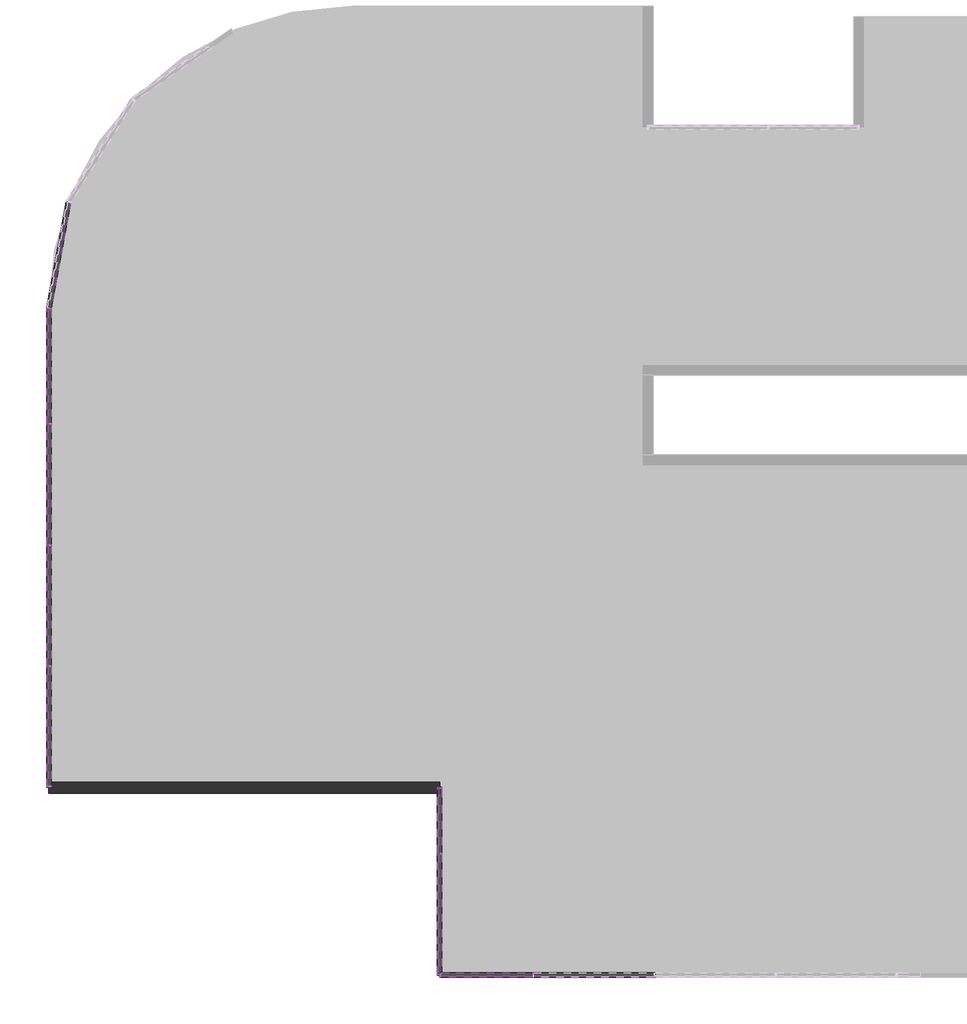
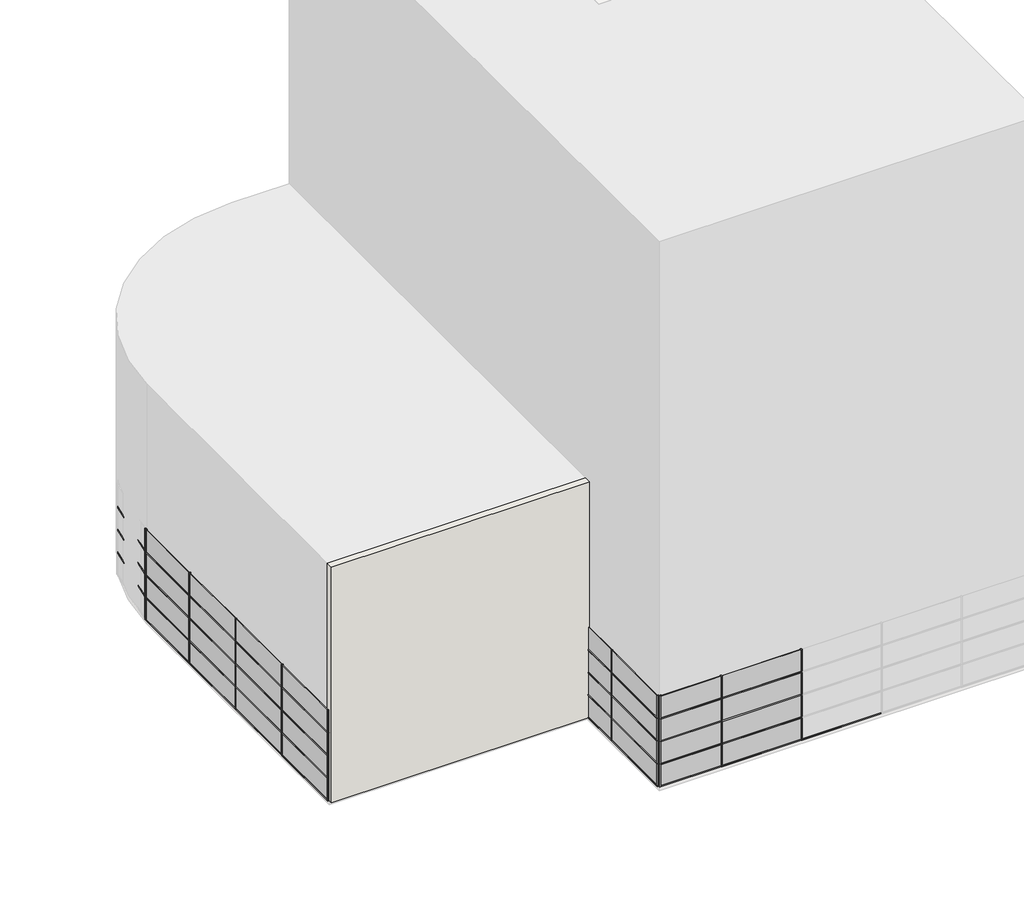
# One storey, part 1 of 5: 83 members, 32 plates, 1 wall.
"""IFC4 building model written with IfcOpenShell, lengths in millimetres."""

from ifc_helpers import new_model, si_unit, origin, origin_with_axes, place, context, project, spatial, polyline, outline, extrude, transform, mapped, element, save
from components import rectangular_mullion_50_x_150mm_d99dc9be, rectangular_mullion_50_x_150mm_182bfbd5, rectangular_mullion_50_x_150mm_402ab136, rectangular_mullion_50_x_150mm_6588f46c, rectangular_mullion_50_x_150mm_a037c29c, rectangular_mullion_50_x_150mm_c2546fd4, rectangular_mullion_50_x_150mm_cd873b1a, rectangular_mullion_50_x_150mm_60738c79, rectangular_mullion_50_x_150mm_bee9d6e8, rectangular_mullion_50_x_150mm_642c3999, rectangular_mullion_50_x_150mm_d9fe8572, rectangular_mullion_50_x_150mm_f56f8a9a, rectangular_mullion_50_x_150mm_a5a25251, system_panel_glazed_ecbc047f, system_panel_glazed_0d1816dc, system_panel_glazed_8e9402eb, system_panel_glazed_89ac83a7, system_panel_glazed_34a378e1, system_panel_glazed_2dc425e2, system_panel_glazed_a7875b16, system_panel_glazed_da5fadb4, system_panel_glazed_e0ec5d24, system_panel_glazed_3a708ec0

model = new_model("IFC4")

# Units and contexts
model_context = context("Model", 3, world=origin())
ifc_project = project(units=[si_unit("LENGTHUNIT", "METRE", prefix="MILLI")], contexts=[model_context])

# Site, building, storey
site = spatial("IfcSite", under=ifc_project)
building = spatial("IfcBuilding", under=site)
storey = spatial("IfcBuildingStorey", under=building, Name="Suteren", Elevation=0.0)

# Members
placement = place(None, origin())
rectangular_mullion_50_x_150mm_shape = rectangular_mullion_50_x_150mm_d99dc9be(model_context)
element("IfcMember", 1, ObjectType="Rectangular Mullion : 50 x 150mm", at=placement, inside=storey, context=model_context, shape_type="MappedRepresentation", body=[
    mapped(rectangular_mullion_50_x_150mm_shape, transform((1503.2660975, -23624.0160434, 2400.0), x_axis=(-1.0, 0.0, 0.0), y_axis=(0.0, -1.0, 0.0), z_axis=(0.0, 0.0, 1.0))),
])
element("IfcMember", 2, ObjectType="Rectangular Mullion : 50 x 150mm", at=placement, inside=storey, context=model_context, shape_type="MappedRepresentation", body=[
    mapped(rectangular_mullion_50_x_150mm_shape, transform((1503.2660975, -23624.0160434, 3600.0), x_axis=(-1.0, 0.0, 0.0), y_axis=(0.0, -1.0, 0.0), z_axis=(0.0, 0.0, 1.0))),
])
element("IfcMember", 3, ObjectType="Rectangular Mullion : 50 x 150mm", at=placement, inside=storey, context=model_context, shape_type="MappedRepresentation", body=[
    mapped(rectangular_mullion_50_x_150mm_shape, transform((1503.2660975, -23624.0160434, 4800.0), x_axis=(-1.0, 0.0, 0.0), y_axis=(0.0, -1.0, 0.0), z_axis=(0.0, 0.0, 1.0))),
])
element("IfcMember", 4, ObjectType="Rectangular Mullion : 50 x 150mm", at=placement, inside=storey, context=model_context, shape_type="MappedRepresentation", body=[
    mapped(rectangular_mullion_50_x_150mm_shape, transform((-2496.7339025, -23624.0160434, 2400.0), x_axis=(-1.0, 0.0, 0.0), y_axis=(0.0, -1.0, 0.0), z_axis=(0.0, 0.0, 1.0))),
])
element("IfcMember", 5, ObjectType="Rectangular Mullion : 50 x 150mm", at=placement, inside=storey, context=model_context, shape_type="MappedRepresentation", body=[
    mapped(rectangular_mullion_50_x_150mm_shape, transform((-2496.7339025, -23624.0160434, 3600.0), x_axis=(-1.0, 0.0, 0.0), y_axis=(0.0, -1.0, 0.0), z_axis=(0.0, 0.0, 1.0))),
])
element("IfcMember", 6, ObjectType="Rectangular Mullion : 50 x 150mm", at=placement, inside=storey, context=model_context, shape_type="MappedRepresentation", body=[
    mapped(rectangular_mullion_50_x_150mm_shape, transform((-2496.7339025, -23624.0160434, 4800.0), x_axis=(-1.0, 0.0, 0.0), y_axis=(0.0, -1.0, 0.0), z_axis=(0.0, 0.0, 1.0))),
])
element("IfcMember", 7, ObjectType="Rectangular Mullion : 50 x 150mm", at=placement, inside=storey, context=model_context, shape_type="MappedRepresentation", body=[
    mapped(rectangular_mullion_50_x_150mm_shape, transform((-5587.173406, -19624.0160434, 2400.0), x_axis=(0.0, 1.0, 0.0), y_axis=(-1.0, 0.0, 0.0), z_axis=(0.0, 0.0, 1.0))),
])
element("IfcMember", 8, ObjectType="Rectangular Mullion : 50 x 150mm", at=placement, inside=storey, context=model_context, shape_type="MappedRepresentation", body=[
    mapped(rectangular_mullion_50_x_150mm_shape, transform((-5587.173406, -19624.0160434, 3600.0), x_axis=(0.0, 1.0, 0.0), y_axis=(-1.0, 0.0, 0.0), z_axis=(0.0, 0.0, 1.0))),
])
element("IfcMember", 9, ObjectType="Rectangular Mullion : 50 x 150mm", at=placement, inside=storey, context=model_context, shape_type="MappedRepresentation", body=[
    mapped(rectangular_mullion_50_x_150mm_shape, transform((-5587.173406, -19624.0160434, 4800.0), x_axis=(0.0, 1.0, 0.0), y_axis=(-1.0, 0.0, 0.0), z_axis=(0.0, 0.0, 1.0))),
])
element("IfcMember", 10, ObjectType="Rectangular Mullion : 50 x 150mm", at=placement, inside=storey, context=model_context, shape_type="MappedRepresentation", body=[
    mapped(rectangular_mullion_50_x_150mm_shape, transform((-18496.7339025, -13423.5291324, 2400.0), x_axis=(0.0, 1.0, 0.0), y_axis=(-1.0, 0.0, 0.0), z_axis=(0.0, 0.0, 1.0))),
])
element("IfcMember", 11, ObjectType="Rectangular Mullion : 50 x 150mm", at=placement, inside=storey, context=model_context, shape_type="MappedRepresentation", body=[
    mapped(rectangular_mullion_50_x_150mm_shape, transform((-18496.7339025, -13423.5291324, 3600.0), x_axis=(0.0, 1.0, 0.0), y_axis=(-1.0, 0.0, 0.0), z_axis=(0.0, 0.0, 1.0))),
])
element("IfcMember", 12, ObjectType="Rectangular Mullion : 50 x 150mm", at=placement, inside=storey, context=model_context, shape_type="MappedRepresentation", body=[
    mapped(rectangular_mullion_50_x_150mm_shape, transform((-18496.7339025, -13423.5291324, 4800.0), x_axis=(0.0, 1.0, 0.0), y_axis=(-1.0, 0.0, 0.0), z_axis=(0.0, 0.0, 1.0))),
])
element("IfcMember", 13, ObjectType="Rectangular Mullion : 50 x 150mm", at=placement, inside=storey, context=model_context, shape_type="MappedRepresentation", body=[
    mapped(rectangular_mullion_50_x_150mm_shape, transform((-18496.7339025, -9423.5291324, 2400.0), x_axis=(0.0, 1.0, 0.0), y_axis=(-1.0, 0.0, 0.0), z_axis=(0.0, 0.0, 1.0))),
])
element("IfcMember", 14, ObjectType="Rectangular Mullion : 50 x 150mm", at=placement, inside=storey, context=model_context, shape_type="MappedRepresentation", body=[
    mapped(rectangular_mullion_50_x_150mm_shape, transform((-18496.7339025, -9423.5291324, 3600.0), x_axis=(0.0, 1.0, 0.0), y_axis=(-1.0, 0.0, 0.0), z_axis=(0.0, 0.0, 1.0))),
])
element("IfcMember", 15, ObjectType="Rectangular Mullion : 50 x 150mm", at=placement, inside=storey, context=model_context, shape_type="MappedRepresentation", body=[
    mapped(rectangular_mullion_50_x_150mm_shape, transform((-18496.7339025, -9423.5291324, 4800.0), x_axis=(0.0, 1.0, 0.0), y_axis=(-1.0, 0.0, 0.0), z_axis=(0.0, 0.0, 1.0))),
])
element("IfcMember", 16, ObjectType="Rectangular Mullion : 50 x 150mm", at=placement, inside=storey, context=model_context, shape_type="MappedRepresentation", body=[
    mapped(rectangular_mullion_50_x_150mm_shape, transform((-18496.7339025, -5423.5291324, 2400.0), x_axis=(0.0, 1.0, 0.0), y_axis=(-1.0, 0.0, 0.0), z_axis=(0.0, 0.0, 1.0))),
])
element("IfcMember", 17, ObjectType="Rectangular Mullion : 50 x 150mm", at=placement, inside=storey, context=model_context, shape_type="MappedRepresentation", body=[
    mapped(rectangular_mullion_50_x_150mm_shape, transform((-18496.7339025, -5423.5291324, 3600.0), x_axis=(0.0, 1.0, 0.0), y_axis=(-1.0, 0.0, 0.0), z_axis=(0.0, 0.0, 1.0))),
])
element("IfcMember", 18, ObjectType="Rectangular Mullion : 50 x 150mm", at=placement, inside=storey, context=model_context, shape_type="MappedRepresentation", body=[
    mapped(rectangular_mullion_50_x_150mm_shape, transform((-18496.7339025, -5423.5291324, 4800.0), x_axis=(0.0, 1.0, 0.0), y_axis=(-1.0, 0.0, 0.0), z_axis=(0.0, 0.0, 1.0))),
])
element("IfcMember", 19, ObjectType="Rectangular Mullion : 50 x 150mm", at=placement, inside=storey, context=model_context, shape_type="MappedRepresentation", body=[
    mapped(rectangular_mullion_50_x_150mm_shape, transform((1503.2660975, -23624.0160434, 1200.0), x_axis=(-1.0, 0.0, 0.0), y_axis=(0.0, -1.0, 0.0), z_axis=(0.0, 0.0, 1.0))),
])
element("IfcMember", 20, ObjectType="Rectangular Mullion : 50 x 150mm", at=placement, inside=storey, context=model_context, shape_type="MappedRepresentation", body=[
    mapped(rectangular_mullion_50_x_150mm_shape, transform((-2496.7339025, -23624.0160434, 1200.0), x_axis=(-1.0, 0.0, 0.0), y_axis=(0.0, -1.0, 0.0), z_axis=(0.0, 0.0, 1.0))),
])
element("IfcMember", 21, ObjectType="Rectangular Mullion : 50 x 150mm", at=placement, inside=storey, context=model_context, shape_type="MappedRepresentation", body=[
    mapped(rectangular_mullion_50_x_150mm_shape, transform((-5587.173406, -19624.0160434, 1200.0), x_axis=(0.0, 1.0, 0.0), y_axis=(-1.0, 0.0, 0.0), z_axis=(0.0, 0.0, 1.0))),
])
element("IfcMember", 22, ObjectType="Rectangular Mullion : 50 x 150mm", at=placement, inside=storey, context=model_context, shape_type="MappedRepresentation", body=[
    mapped(rectangular_mullion_50_x_150mm_shape, transform((-18496.7339025, -13423.5291324, 1200.0), x_axis=(0.0, 1.0, 0.0), y_axis=(-1.0, 0.0, 0.0), z_axis=(0.0, 0.0, 1.0))),
])
element("IfcMember", 23, ObjectType="Rectangular Mullion : 50 x 150mm", at=placement, inside=storey, context=model_context, shape_type="MappedRepresentation", body=[
    mapped(rectangular_mullion_50_x_150mm_shape, transform((-18496.7339025, -9423.5291324, 1200.0), x_axis=(0.0, 1.0, 0.0), y_axis=(-1.0, 0.0, 0.0), z_axis=(0.0, 0.0, 1.0))),
])
element("IfcMember", 24, ObjectType="Rectangular Mullion : 50 x 150mm", at=placement, inside=storey, context=model_context, shape_type="MappedRepresentation", body=[
    mapped(rectangular_mullion_50_x_150mm_shape, transform((-18496.7339025, -5423.5291324, 1200.0), x_axis=(0.0, 1.0, 0.0), y_axis=(-1.0, 0.0, 0.0), z_axis=(0.0, 0.0, 1.0))),
])
rectangular_mullion_50_x_150mm_2_shape = rectangular_mullion_50_x_150mm_182bfbd5(model_context)
element("IfcMember", 25, ObjectType="Rectangular Mullion : 50 x 150mm", at=placement, inside=storey, context=model_context, shape_type="MappedRepresentation", body=[
    mapped(rectangular_mullion_50_x_150mm_2_shape, transform((1528.2660975, -23624.0160434, 0.0), x_axis=(0.0, 0.0, -1.0), y_axis=(0.0, -1.0, 0.0), z_axis=(-1.0, 0.0, 0.0))),
])
element("IfcMember", 26, ObjectType="Rectangular Mullion : 50 x 150mm", at=placement, inside=storey, context=model_context, shape_type="MappedRepresentation", body=[
    mapped(rectangular_mullion_50_x_150mm_2_shape, transform((-2471.7339025, -23624.0160434, 0.0), x_axis=(0.0, 0.0, -1.0), y_axis=(0.0, -1.0, 0.0), z_axis=(-1.0, 0.0, 0.0))),
])
element("IfcMember", 27, ObjectType="Rectangular Mullion : 50 x 150mm", at=placement, inside=storey, context=model_context, shape_type="MappedRepresentation", body=[
    mapped(rectangular_mullion_50_x_150mm_2_shape, transform((-18496.7339025, -9448.5291324, 0.0), x_axis=(0.0, 0.0, -1.0), y_axis=(-1.0, 0.0, 0.0), z_axis=(0.0, 1.0, 0.0))),
])
element("IfcMember", 28, ObjectType="Rectangular Mullion : 50 x 150mm", at=placement, inside=storey, context=model_context, shape_type="MappedRepresentation", body=[
    mapped(rectangular_mullion_50_x_150mm_2_shape, transform((-18496.7339025, -5448.5291324, 0.0), x_axis=(0.0, 0.0, -1.0), y_axis=(-1.0, 0.0, 0.0), z_axis=(0.0, 1.0, 0.0))),
])
rectangular_mullion_50_x_150mm_3_shape = rectangular_mullion_50_x_150mm_402ab136(model_context)
element("IfcMember", 29, ObjectType="Rectangular Mullion : 50 x 150mm", at=placement, inside=storey, context=model_context, shape_type="MappedRepresentation", body=[
    mapped(rectangular_mullion_50_x_150mm_3_shape, transform((-5587.173406, -19649.0160434, 0.0), x_axis=(0.0, 0.0, -1.0), y_axis=(-1.0, 0.0, 0.0), z_axis=(0.0, 1.0, 0.0))),
])
element("IfcMember", 30, ObjectType="Rectangular Mullion : 50 x 150mm", at=placement, inside=storey, context=model_context, shape_type="MappedRepresentation", body=[
    mapped(rectangular_mullion_50_x_150mm_3_shape, transform((-18496.7339025, -13448.5291324, 0.0), x_axis=(0.0, 0.0, -1.0), y_axis=(-1.0, 0.0, 0.0), z_axis=(0.0, 1.0, 0.0))),
])
rectangular_mullion_50_x_150mm_4_shape = rectangular_mullion_50_x_150mm_6588f46c(model_context)
element("IfcMember", 31, ObjectType="Rectangular Mullion : 50 x 150mm", at=placement, inside=storey, context=model_context, shape_type="MappedRepresentation", body=[
    mapped(rectangular_mullion_50_x_150mm_4_shape, transform((-5587.173406, -23624.0160434, 4800.0), x_axis=(-1.0, 0.0, 0.0), y_axis=(0.0, -1.0, 0.0), z_axis=(0.0, 0.0, 1.0))),
])
element("IfcMember", 32, ObjectType="Rectangular Mullion : 50 x 150mm", at=placement, inside=storey, context=model_context, shape_type="MappedRepresentation", body=[
    mapped(rectangular_mullion_50_x_150mm_4_shape, transform((-5587.173406, -23624.0160434, 2400.0), x_axis=(-1.0, 0.0, 0.0), y_axis=(0.0, -1.0, 0.0), z_axis=(0.0, 0.0, 1.0))),
])
element("IfcMember", 33, ObjectType="Rectangular Mullion : 50 x 150mm", at=placement, inside=storey, context=model_context, shape_type="MappedRepresentation", body=[
    mapped(rectangular_mullion_50_x_150mm_4_shape, transform((-5587.173406, -23624.0160434, 3600.0), x_axis=(-1.0, 0.0, 0.0), y_axis=(0.0, -1.0, 0.0), z_axis=(0.0, 0.0, 1.0))),
])
element("IfcMember", 34, ObjectType="Rectangular Mullion : 50 x 150mm", at=placement, inside=storey, context=model_context, shape_type="MappedRepresentation", body=[
    mapped(rectangular_mullion_50_x_150mm_4_shape, transform((-5587.173406, -17423.5291324, 2400.0), x_axis=(0.0, 1.0, 0.0), y_axis=(-1.0, 0.0, 0.0), z_axis=(0.0, 0.0, 1.0))),
])
element("IfcMember", 35, ObjectType="Rectangular Mullion : 50 x 150mm", at=placement, inside=storey, context=model_context, shape_type="MappedRepresentation", body=[
    mapped(rectangular_mullion_50_x_150mm_4_shape, transform((-5587.173406, -17423.5291324, 3600.0), x_axis=(0.0, 1.0, 0.0), y_axis=(-1.0, 0.0, 0.0), z_axis=(0.0, 0.0, 1.0))),
])
element("IfcMember", 36, ObjectType="Rectangular Mullion : 50 x 150mm", at=placement, inside=storey, context=model_context, shape_type="MappedRepresentation", body=[
    mapped(rectangular_mullion_50_x_150mm_4_shape, transform((-5587.173406, -17423.5291324, 4800.0), x_axis=(0.0, 1.0, 0.0), y_axis=(-1.0, 0.0, 0.0), z_axis=(0.0, 0.0, 1.0))),
])
element("IfcMember", 37, ObjectType="Rectangular Mullion : 50 x 150mm", at=placement, inside=storey, context=model_context, shape_type="MappedRepresentation", body=[
    mapped(rectangular_mullion_50_x_150mm_4_shape, transform((-18496.7339025, -1624.0160434, 2400.0), x_axis=(0.0, 1.0, 0.0), y_axis=(-1.0, 0.0, 0.0), z_axis=(0.0, 0.0, 1.0))),
])
element("IfcMember", 38, ObjectType="Rectangular Mullion : 50 x 150mm", at=placement, inside=storey, context=model_context, shape_type="MappedRepresentation", body=[
    mapped(rectangular_mullion_50_x_150mm_4_shape, transform((-18496.7339025, -1624.0160434, 3600.0), x_axis=(0.0, 1.0, 0.0), y_axis=(-1.0, 0.0, 0.0), z_axis=(0.0, 0.0, 1.0))),
])
element("IfcMember", 39, ObjectType="Rectangular Mullion : 50 x 150mm", at=placement, inside=storey, context=model_context, shape_type="MappedRepresentation", body=[
    mapped(rectangular_mullion_50_x_150mm_4_shape, transform((-18496.7339025, -1624.0160434, 4800.0), x_axis=(0.0, 1.0, 0.0), y_axis=(-1.0, 0.0, 0.0), z_axis=(0.0, 0.0, 1.0))),
])
element("IfcMember", 40, ObjectType="Rectangular Mullion : 50 x 150mm", at=placement, inside=storey, context=model_context, shape_type="MappedRepresentation", body=[
    mapped(rectangular_mullion_50_x_150mm_4_shape, transform((-5587.173406, -23624.0160434, 1200.0), x_axis=(-1.0, 0.0, 0.0), y_axis=(0.0, -1.0, 0.0), z_axis=(0.0, 0.0, 1.0))),
])
element("IfcMember", 41, ObjectType="Rectangular Mullion : 50 x 150mm", at=placement, inside=storey, context=model_context, shape_type="MappedRepresentation", body=[
    mapped(rectangular_mullion_50_x_150mm_4_shape, transform((-5587.173406, -17423.5291324, 1200.0), x_axis=(0.0, 1.0, 0.0), y_axis=(-1.0, 0.0, 0.0), z_axis=(0.0, 0.0, 1.0))),
])
element("IfcMember", 42, ObjectType="Rectangular Mullion : 50 x 150mm", at=placement, inside=storey, context=model_context, shape_type="MappedRepresentation", body=[
    mapped(rectangular_mullion_50_x_150mm_4_shape, transform((-18496.7339025, -1624.0160434, 1200.0), x_axis=(0.0, 1.0, 0.0), y_axis=(-1.0, 0.0, 0.0), z_axis=(0.0, 0.0, 1.0))),
])
rectangular_mullion_50_x_150mm_5_shape = rectangular_mullion_50_x_150mm_a037c29c(model_context)
element("IfcMember", 43, ObjectType="Rectangular Mullion : 50 x 150mm", at=placement, inside=storey, context=model_context, shape_type="MappedRepresentation", body=[
    mapped(rectangular_mullion_50_x_150mm_5_shape, transform((1478.2660975, -23624.0160434, 3600.0), x_axis=(0.0, 0.0, 1.0), y_axis=(0.0, -1.0, 0.0), z_axis=(1.0, 0.0, 0.0))),
])
element("IfcMember", 44, ObjectType="Rectangular Mullion : 50 x 150mm", at=placement, inside=storey, context=model_context, shape_type="MappedRepresentation", body=[
    mapped(rectangular_mullion_50_x_150mm_5_shape, transform((1478.2660975, -23624.0160434, 1200.0), x_axis=(0.0, 0.0, 1.0), y_axis=(0.0, -1.0, 0.0), z_axis=(1.0, 0.0, 0.0))),
])
element("IfcMember", 45, ObjectType="Rectangular Mullion : 50 x 150mm", at=placement, inside=storey, context=model_context, shape_type="MappedRepresentation", body=[
    mapped(rectangular_mullion_50_x_150mm_5_shape, transform((-18496.7339025, -13398.5291324, 2400.0), x_axis=(0.0, 0.0, 1.0), y_axis=(-1.0, 0.0, 0.0), z_axis=(0.0, -1.0, 0.0))),
])
element("IfcMember", 46, ObjectType="Rectangular Mullion : 50 x 150mm", at=placement, inside=storey, context=model_context, shape_type="MappedRepresentation", body=[
    mapped(rectangular_mullion_50_x_150mm_5_shape, transform((-18496.7339025, -9398.5291324, 2400.0), x_axis=(0.0, 0.0, 1.0), y_axis=(-1.0, 0.0, 0.0), z_axis=(0.0, -1.0, 0.0))),
])
element("IfcMember", 47, ObjectType="Rectangular Mullion : 50 x 150mm", at=placement, inside=storey, context=model_context, shape_type="MappedRepresentation", body=[
    mapped(rectangular_mullion_50_x_150mm_5_shape, transform((-18496.7339025, -13398.5291324, 3600.0), x_axis=(0.0, 0.0, 1.0), y_axis=(-1.0, 0.0, 0.0), z_axis=(0.0, -1.0, 0.0))),
])
element("IfcMember", 48, ObjectType="Rectangular Mullion : 50 x 150mm", at=placement, inside=storey, context=model_context, shape_type="MappedRepresentation", body=[
    mapped(rectangular_mullion_50_x_150mm_5_shape, transform((-18496.7339025, -9398.5291324, 3600.0), x_axis=(0.0, 0.0, 1.0), y_axis=(-1.0, 0.0, 0.0), z_axis=(0.0, -1.0, 0.0))),
])
element("IfcMember", 49, ObjectType="Rectangular Mullion : 50 x 150mm", at=placement, inside=storey, context=model_context, shape_type="MappedRepresentation", body=[
    mapped(rectangular_mullion_50_x_150mm_5_shape, transform((-18496.7339025, -13398.5291324, 1200.0), x_axis=(0.0, 0.0, 1.0), y_axis=(-1.0, 0.0, 0.0), z_axis=(0.0, -1.0, 0.0))),
])
element("IfcMember", 50, ObjectType="Rectangular Mullion : 50 x 150mm", at=placement, inside=storey, context=model_context, shape_type="MappedRepresentation", body=[
    mapped(rectangular_mullion_50_x_150mm_5_shape, transform((-18496.7339025, -9398.5291324, 1200.0), x_axis=(0.0, 0.0, 1.0), y_axis=(-1.0, 0.0, 0.0), z_axis=(0.0, -1.0, 0.0))),
])
rectangular_mullion_50_x_150mm_6_shape = rectangular_mullion_50_x_150mm_c2546fd4(model_context)
element("IfcMember", 51, ObjectType="Rectangular Mullion : 50 x 150mm", at=placement, inside=storey, context=model_context, shape_type="MappedRepresentation", body=[
    mapped(rectangular_mullion_50_x_150mm_6_shape, transform((-5587.173406, -23574.0160434, 1200.0), x_axis=(0.0, 0.0, 1.0), y_axis=(-1.0, 0.0, 0.0), z_axis=(0.0, -1.0, 0.0))),
])
element("IfcMember", 52, ObjectType="Rectangular Mullion : 50 x 150mm", at=placement, inside=storey, context=model_context, shape_type="MappedRepresentation", body=[
    mapped(rectangular_mullion_50_x_150mm_6_shape, transform((-5587.173406, -23574.0160434, 2400.0), x_axis=(0.0, 0.0, 1.0), y_axis=(-1.0, 0.0, 0.0), z_axis=(0.0, -1.0, 0.0))),
])
element("IfcMember", 53, ObjectType="Rectangular Mullion : 50 x 150mm", at=placement, inside=storey, context=model_context, shape_type="MappedRepresentation", body=[
    mapped(rectangular_mullion_50_x_150mm_6_shape, transform((-5587.173406, -23574.0160434, 3600.0), x_axis=(0.0, 0.0, 1.0), y_axis=(-1.0, 0.0, 0.0), z_axis=(0.0, -1.0, 0.0))),
])
element("IfcMember", 54, ObjectType="Rectangular Mullion : 50 x 150mm", at=placement, inside=storey, context=model_context, shape_type="MappedRepresentation", body=[
    mapped(rectangular_mullion_50_x_150mm_6_shape, transform((-18496.7339025, -17373.5291324, 2400.0), x_axis=(0.0, 0.0, 1.0), y_axis=(-1.0, 0.0, 0.0), z_axis=(0.0, -1.0, 0.0))),
])
element("IfcMember", 55, ObjectType="Rectangular Mullion : 50 x 150mm", at=placement, inside=storey, context=model_context, shape_type="MappedRepresentation", body=[
    mapped(rectangular_mullion_50_x_150mm_6_shape, transform((-18496.7339025, -17373.5291324, 3600.0), x_axis=(0.0, 0.0, 1.0), y_axis=(-1.0, 0.0, 0.0), z_axis=(0.0, -1.0, 0.0))),
])
element("IfcMember", 56, ObjectType="Rectangular Mullion : 50 x 150mm", at=placement, inside=storey, context=model_context, shape_type="MappedRepresentation", body=[
    mapped(rectangular_mullion_50_x_150mm_6_shape, transform((-18496.7339025, -17373.5291324, 1200.0), x_axis=(0.0, 0.0, 1.0), y_axis=(-1.0, 0.0, 0.0), z_axis=(0.0, -1.0, 0.0))),
])
element("IfcMember", 57, ObjectType="Rectangular Mullion : 50 x 150mm", at=placement, inside=storey, context=model_context, shape_type="MappedRepresentation", body=[
    mapped(rectangular_mullion_50_x_150mm_4_shape, transform((-5587.173406, -23624.0160434, 1200.0), x_axis=(0.0, -1.0, 0.0), y_axis=(-1.0, 0.0, 0.0), z_axis=(0.0, 0.0, -1.0))),
])
element("IfcMember", 58, ObjectType="Rectangular Mullion : 50 x 150mm", at=placement, inside=storey, context=model_context, shape_type="MappedRepresentation", body=[
    mapped(rectangular_mullion_50_x_150mm_4_shape, transform((-5587.173406, -23624.0160434, 2400.0), x_axis=(0.0, -1.0, 0.0), y_axis=(-1.0, 0.0, 0.0), z_axis=(0.0, 0.0, -1.0))),
])
element("IfcMember", 59, ObjectType="Rectangular Mullion : 50 x 150mm", at=placement, inside=storey, context=model_context, shape_type="MappedRepresentation", body=[
    mapped(rectangular_mullion_50_x_150mm_4_shape, transform((-5587.173406, -23624.0160434, 3600.0), x_axis=(0.0, -1.0, 0.0), y_axis=(-1.0, 0.0, 0.0), z_axis=(0.0, 0.0, -1.0))),
])
element("IfcMember", 60, ObjectType="Rectangular Mullion : 50 x 150mm", at=placement, inside=storey, context=model_context, shape_type="MappedRepresentation", body=[
    mapped(rectangular_mullion_50_x_150mm_4_shape, transform((-18496.7339025, -1624.0160434, 1200.0), x_axis=(-0.18033241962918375, -0.9836057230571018, 0.0), y_axis=(-0.9836057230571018, 0.18033241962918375, 0.0), z_axis=(0.0, 0.0, -1.0))),
])
element("IfcMember", 61, ObjectType="Rectangular Mullion : 50 x 150mm", at=placement, inside=storey, context=model_context, shape_type="MappedRepresentation", body=[
    mapped(rectangular_mullion_50_x_150mm_4_shape, transform((-18496.7339025, -1624.0160434, 2400.0), x_axis=(-0.18033241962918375, -0.9836057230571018, 0.0), y_axis=(-0.9836057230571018, 0.18033241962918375, 0.0), z_axis=(0.0, 0.0, -1.0))),
])
element("IfcMember", 62, ObjectType="Rectangular Mullion : 50 x 150mm", at=placement, inside=storey, context=model_context, shape_type="MappedRepresentation", body=[
    mapped(rectangular_mullion_50_x_150mm_4_shape, transform((-18496.7339025, -1624.0160434, 3600.0), x_axis=(-0.18033241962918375, -0.9836057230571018, 0.0), y_axis=(-0.9836057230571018, 0.18033241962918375, 0.0), z_axis=(0.0, 0.0, -1.0))),
])
element("IfcMember", 63, ObjectType="Rectangular Mullion : 50 x 150mm", at=placement, inside=storey, context=model_context, shape_type="MappedRepresentation", body=[
    mapped(rectangular_mullion_50_x_150mm_4_shape, transform((-18496.7339025, -17423.5291324, 2400.0), x_axis=(0.0, -1.0, 0.0), y_axis=(-1.0, 0.0, 0.0), z_axis=(0.0, 0.0, -1.0))),
])
element("IfcMember", 64, ObjectType="Rectangular Mullion : 50 x 150mm", at=placement, inside=storey, context=model_context, shape_type="MappedRepresentation", body=[
    mapped(rectangular_mullion_50_x_150mm_4_shape, transform((-18496.7339025, -17423.5291324, 3600.0), x_axis=(0.0, -1.0, 0.0), y_axis=(-1.0, 0.0, 0.0), z_axis=(0.0, 0.0, -1.0))),
])
element("IfcMember", 65, ObjectType="Rectangular Mullion : 50 x 150mm", at=placement, inside=storey, context=model_context, shape_type="MappedRepresentation", body=[
    mapped(rectangular_mullion_50_x_150mm_4_shape, transform((-18496.7339025, -17423.5291324, 1200.0), x_axis=(0.0, -1.0, 0.0), y_axis=(-1.0, 0.0, 0.0), z_axis=(0.0, 0.0, -1.0))),
])
element("IfcMember", 66, ObjectType="Rectangular Mullion : 50 x 150mm", at=placement, inside=storey, context=model_context, shape_type="MappedRepresentation", body=[
    mapped(rectangular_mullion_50_x_150mm_4_shape, transform((-5587.173406, -23624.0160434, 0.0), x_axis=(0.0, -1.0, 0.0), y_axis=(-1.0, 0.0, 0.0), z_axis=(0.0, 0.0, -1.0))),
])
element("IfcMember", 67, ObjectType="Rectangular Mullion : 50 x 150mm", at=placement, inside=storey, context=model_context, shape_type="MappedRepresentation", body=[
    mapped(rectangular_mullion_50_x_150mm_4_shape, transform((-18496.7339025, -1624.0160434, 0.0), x_axis=(-0.18033241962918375, -0.9836057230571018, 0.0), y_axis=(-0.9836057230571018, 0.18033241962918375, 0.0), z_axis=(0.0, 0.0, -1.0))),
])
element("IfcMember", 68, ObjectType="Rectangular Mullion : 50 x 150mm", at=placement, inside=storey, context=model_context, shape_type="MappedRepresentation", body=[
    mapped(rectangular_mullion_50_x_150mm_4_shape, transform((-18496.7339025, -17423.5291324, 0.0), x_axis=(0.0, -1.0, 0.0), y_axis=(-1.0, 0.0, 0.0), z_axis=(0.0, 0.0, -1.0))),
])
rectangular_mullion_50_x_150mm_7_shape = rectangular_mullion_50_x_150mm_cd873b1a(model_context)
element("IfcMember", 69, ObjectType="Rectangular Mullion : 50 x 150mm", at=placement, inside=storey, context=model_context, shape_type="MappedRepresentation", body=[
    mapped(rectangular_mullion_50_x_150mm_7_shape, transform((-2521.7339025, -23624.0160434, 3600.0), x_axis=(0.0, 0.0, 1.0), y_axis=(0.0, -1.0, 0.0), z_axis=(1.0, 0.0, 0.0))),
])
element("IfcMember", 70, ObjectType="Rectangular Mullion : 50 x 150mm", at=placement, inside=storey, context=model_context, shape_type="MappedRepresentation", body=[
    mapped(rectangular_mullion_50_x_150mm_7_shape, transform((-2521.7339025, -23624.0160434, 1200.0), x_axis=(0.0, 0.0, 1.0), y_axis=(0.0, -1.0, 0.0), z_axis=(1.0, 0.0, 0.0))),
])
element("IfcMember", 71, ObjectType="Rectangular Mullion : 50 x 150mm", at=placement, inside=storey, context=model_context, shape_type="MappedRepresentation", body=[
    mapped(rectangular_mullion_50_x_150mm_7_shape, transform((-2521.7339025, -23624.0160434, 2400.0), x_axis=(0.0, 0.0, 1.0), y_axis=(0.0, -1.0, 0.0), z_axis=(1.0, 0.0, 0.0))),
])
rectangular_mullion_50_x_150mm_8_shape = rectangular_mullion_50_x_150mm_60738c79(model_context)
element("IfcMember", 72, ObjectType="Rectangular Mullion : 50 x 150mm", at=placement, inside=storey, context=model_context, shape_type="MappedRepresentation", body=[
    mapped(rectangular_mullion_50_x_150mm_8_shape, transform((-5537.173406, -23624.0160434, 0.0), x_axis=(0.0, 0.0, -1.0), y_axis=(0.0, -1.0, 0.0), z_axis=(-1.0, 0.0, 0.0))),
])
rectangular_mullion_50_x_150mm_9_shape = rectangular_mullion_50_x_150mm_bee9d6e8(model_context)
element("IfcMember", 73, ObjectType="Rectangular Mullion : 50 x 150mm", at=placement, inside=storey, context=model_context, shape_type="MappedRepresentation", body=[
    mapped(rectangular_mullion_50_x_150mm_9_shape, transform((-5587.173406, -17473.5291324, 0.0), x_axis=(0.0, 0.0, -1.0), y_axis=(-1.0, 0.0, 0.0), z_axis=(0.0, 1.0, 0.0))),
])
rectangular_mullion_50_x_150mm_10_shape = rectangular_mullion_50_x_150mm_642c3999(model_context)
element("IfcMember", 74, ObjectType="Rectangular Mullion : 50 x 150mm", at=placement, inside=storey, context=model_context, shape_type="MappedRepresentation", body=[
    mapped(rectangular_mullion_50_x_150mm_10_shape, transform((-5587.173406, -19599.0160434, 1200.0), x_axis=(0.0, 0.0, 1.0), y_axis=(-1.0, 0.0, 0.0), z_axis=(0.0, -1.0, 0.0))),
])
element("IfcMember", 75, ObjectType="Rectangular Mullion : 50 x 150mm", at=placement, inside=storey, context=model_context, shape_type="MappedRepresentation", body=[
    mapped(rectangular_mullion_50_x_150mm_10_shape, transform((-5587.173406, -19599.0160434, 2400.0), x_axis=(0.0, 0.0, 1.0), y_axis=(-1.0, 0.0, 0.0), z_axis=(0.0, -1.0, 0.0))),
])
element("IfcMember", 76, ObjectType="Rectangular Mullion : 50 x 150mm", at=placement, inside=storey, context=model_context, shape_type="MappedRepresentation", body=[
    mapped(rectangular_mullion_50_x_150mm_10_shape, transform((-5587.173406, -19599.0160434, 3600.0), x_axis=(0.0, 0.0, 1.0), y_axis=(-1.0, 0.0, 0.0), z_axis=(0.0, -1.0, 0.0))),
])
rectangular_mullion_50_x_150mm_11_shape = rectangular_mullion_50_x_150mm_d9fe8572(model_context)
element("IfcMember", 77, ObjectType="Rectangular Mullion : 50 x 150mm", at=placement, inside=storey, context=model_context, shape_type="MappedRepresentation", body=[
    mapped(rectangular_mullion_50_x_150mm_11_shape, transform((-18487.7172815, -1574.8357573, 1200.0), x_axis=(0.0, 0.0, 1.0), y_axis=(-0.9836057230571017, 0.1803324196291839, 0.0), z_axis=(-0.1803324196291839, -0.9836057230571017, 0.0))),
])
element("IfcMember", 78, ObjectType="Rectangular Mullion : 50 x 150mm", at=placement, inside=storey, context=model_context, shape_type="MappedRepresentation", body=[
    mapped(rectangular_mullion_50_x_150mm_11_shape, transform((-18487.7172815, -1574.8357573, 2400.0), x_axis=(0.0, 0.0, 1.0), y_axis=(-0.9836057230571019, 0.18033241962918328, 0.0), z_axis=(-0.18033241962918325, -0.9836057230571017, 0.0))),
])
element("IfcMember", 79, ObjectType="Rectangular Mullion : 50 x 150mm", at=placement, inside=storey, context=model_context, shape_type="MappedRepresentation", body=[
    mapped(rectangular_mullion_50_x_150mm_11_shape, transform((-18487.7172815, -1574.8357573, 3600.0), x_axis=(0.0, 0.0, 1.0), y_axis=(-0.9836057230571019, 0.18033241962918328, 0.0), z_axis=(-0.18033241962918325, -0.9836057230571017, 0.0))),
])
rectangular_mullion_50_x_150mm_12_shape = rectangular_mullion_50_x_150mm_f56f8a9a(model_context)
element("IfcMember", 80, ObjectType="Rectangular Mullion : 50 x 150mm", at=placement, inside=storey, context=model_context, shape_type="MappedRepresentation", body=[
    mapped(rectangular_mullion_50_x_150mm_12_shape, transform((-18496.7339025, -5398.5291324, 2400.0), x_axis=(0.0, 0.0, 1.0), y_axis=(-1.0, 0.0, 0.0), z_axis=(0.0, -1.0, 0.0))),
])
element("IfcMember", 81, ObjectType="Rectangular Mullion : 50 x 150mm", at=placement, inside=storey, context=model_context, shape_type="MappedRepresentation", body=[
    mapped(rectangular_mullion_50_x_150mm_12_shape, transform((-18496.7339025, -5398.5291324, 3600.0), x_axis=(0.0, 0.0, 1.0), y_axis=(-1.0, 0.0, 0.0), z_axis=(0.0, -1.0, 0.0))),
])
element("IfcMember", 82, ObjectType="Rectangular Mullion : 50 x 150mm", at=placement, inside=storey, context=model_context, shape_type="MappedRepresentation", body=[
    mapped(rectangular_mullion_50_x_150mm_12_shape, transform((-18496.7339025, -5398.5291324, 1200.0), x_axis=(0.0, 0.0, 1.0), y_axis=(-1.0, 0.0, 0.0), z_axis=(0.0, -1.0, 0.0))),
])
rectangular_mullion_50_x_150mm_13_shape = rectangular_mullion_50_x_150mm_a5a25251(model_context)
element("IfcMember", 83, ObjectType="Rectangular Mullion : 50 x 150mm", at=placement, inside=storey, context=model_context, shape_type="MappedRepresentation", body=[
    mapped(rectangular_mullion_50_x_150mm_13_shape, transform((-18496.7339025, -1674.0160434, 0.0), x_axis=(0.0, 0.0, -1.0), y_axis=(-1.0, 0.0, 0.0), z_axis=(0.0, 1.0, 0.0))),
])

# Plates
system_panel_glazed_shape = system_panel_glazed_ecbc047f(model_context)
element("IfcPlate", 84, ObjectType="System Panel : Glazed", at=placement, inside=storey, context=model_context, shape_type="MappedRepresentation", body=[
    mapped(system_panel_glazed_shape, transform((-5587.173406, -21611.5160434, 50.0), x_axis=(0.0, 1.0, 0.0), y_axis=(-1.0, 0.0, 0.0), z_axis=(0.0, 0.0, 1.0))),
])
element("IfcPlate", 85, ObjectType="System Panel : Glazed", at=placement, inside=storey, context=model_context, shape_type="MappedRepresentation", body=[
    mapped(system_panel_glazed_shape, transform((-18496.7339025, -15411.0291324, 50.0), x_axis=(0.0, 1.0, 0.0), y_axis=(-1.0, 0.0, 0.0), z_axis=(0.0, 0.0, 1.0))),
])
system_panel_glazed_2_shape = system_panel_glazed_0d1816dc(model_context)
element("IfcPlate", 86, ObjectType="System Panel : Glazed", at=placement, inside=storey, context=model_context, shape_type="MappedRepresentation", body=[
    mapped(system_panel_glazed_2_shape, transform((-496.7339025, -23624.0160434, 50.0), x_axis=(-1.0, 0.0, 0.0), y_axis=(0.0, -1.0, 0.0), z_axis=(0.0, 0.0, 1.0))),
])
element("IfcPlate", 87, ObjectType="System Panel : Glazed", at=placement, inside=storey, context=model_context, shape_type="MappedRepresentation", body=[
    mapped(system_panel_glazed_2_shape, transform((-18496.7339025, -11423.5291324, 50.0), x_axis=(0.0, 1.0, 0.0), y_axis=(-1.0, 0.0, 0.0), z_axis=(0.0, 0.0, 1.0))),
])
element("IfcPlate", 88, ObjectType="System Panel : Glazed", at=placement, inside=storey, context=model_context, shape_type="MappedRepresentation", body=[
    mapped(system_panel_glazed_2_shape, transform((-18496.7339025, -7423.5291324, 50.0), x_axis=(0.0, 1.0, 0.0), y_axis=(-1.0, 0.0, 0.0), z_axis=(0.0, 0.0, 1.0))),
])
system_panel_glazed_3_shape = system_panel_glazed_8e9402eb(model_context)
element("IfcPlate", 89, ObjectType="System Panel : Glazed", at=placement, inside=storey, context=model_context, shape_type="MappedRepresentation", body=[
    mapped(system_panel_glazed_3_shape, transform((-5587.173406, -21611.5160434, 1225.0), x_axis=(0.0, 1.0, 0.0), y_axis=(-1.0, 0.0, 0.0), z_axis=(0.0, 0.0, 1.0))),
])
element("IfcPlate", 90, ObjectType="System Panel : Glazed", at=placement, inside=storey, context=model_context, shape_type="MappedRepresentation", body=[
    mapped(system_panel_glazed_3_shape, transform((-5587.173406, -21611.5160434, 2425.0), x_axis=(0.0, 1.0, 0.0), y_axis=(-1.0, 0.0, 0.0), z_axis=(0.0, 0.0, 1.0))),
])
element("IfcPlate", 91, ObjectType="System Panel : Glazed", at=placement, inside=storey, context=model_context, shape_type="MappedRepresentation", body=[
    mapped(system_panel_glazed_3_shape, transform((-5587.173406, -21611.5160434, 3625.0), x_axis=(0.0, 1.0, 0.0), y_axis=(-1.0, 0.0, 0.0), z_axis=(0.0, 0.0, 1.0))),
])
element("IfcPlate", 92, ObjectType="System Panel : Glazed", at=placement, inside=storey, context=model_context, shape_type="MappedRepresentation", body=[
    mapped(system_panel_glazed_3_shape, transform((-18496.7339025, -15411.0291324, 1225.0), x_axis=(0.0, 1.0, 0.0), y_axis=(-1.0, 0.0, 0.0), z_axis=(0.0, 0.0, 1.0))),
])
element("IfcPlate", 93, ObjectType="System Panel : Glazed", at=placement, inside=storey, context=model_context, shape_type="MappedRepresentation", body=[
    mapped(system_panel_glazed_3_shape, transform((-18496.7339025, -15411.0291324, 2425.0), x_axis=(0.0, 1.0, 0.0), y_axis=(-1.0, 0.0, 0.0), z_axis=(0.0, 0.0, 1.0))),
])
element("IfcPlate", 94, ObjectType="System Panel : Glazed", at=placement, inside=storey, context=model_context, shape_type="MappedRepresentation", body=[
    mapped(system_panel_glazed_3_shape, transform((-18496.7339025, -15411.0291324, 3625.0), x_axis=(0.0, 1.0, 0.0), y_axis=(-1.0, 0.0, 0.0), z_axis=(0.0, 0.0, 1.0))),
])
system_panel_glazed_4_shape = system_panel_glazed_89ac83a7(model_context)
element("IfcPlate", 95, ObjectType="System Panel : Glazed", at=placement, inside=storey, context=model_context, shape_type="MappedRepresentation", body=[
    mapped(system_panel_glazed_4_shape, transform((-496.7339025, -23624.0160434, 1225.0), x_axis=(-1.0, 0.0, 0.0), y_axis=(0.0, -1.0, 0.0), z_axis=(0.0, 0.0, 1.0))),
])
element("IfcPlate", 96, ObjectType="System Panel : Glazed", at=placement, inside=storey, context=model_context, shape_type="MappedRepresentation", body=[
    mapped(system_panel_glazed_4_shape, transform((-496.7339025, -23624.0160434, 2425.0), x_axis=(-1.0, 0.0, 0.0), y_axis=(0.0, -1.0, 0.0), z_axis=(0.0, 0.0, 1.0))),
])
element("IfcPlate", 97, ObjectType="System Panel : Glazed", at=placement, inside=storey, context=model_context, shape_type="MappedRepresentation", body=[
    mapped(system_panel_glazed_4_shape, transform((-496.7339025, -23624.0160434, 3625.0), x_axis=(-1.0, 0.0, 0.0), y_axis=(0.0, -1.0, 0.0), z_axis=(0.0, 0.0, 1.0))),
])
element("IfcPlate", 98, ObjectType="System Panel : Glazed", at=placement, inside=storey, context=model_context, shape_type="MappedRepresentation", body=[
    mapped(system_panel_glazed_4_shape, transform((-18496.7339025, -11423.5291324, 1225.0), x_axis=(0.0, 1.0, 0.0), y_axis=(-1.0, 0.0, 0.0), z_axis=(0.0, 0.0, 1.0))),
])
element("IfcPlate", 99, ObjectType="System Panel : Glazed", at=placement, inside=storey, context=model_context, shape_type="MappedRepresentation", body=[
    mapped(system_panel_glazed_4_shape, transform((-18496.7339025, -7423.5291324, 1225.0), x_axis=(0.0, 1.0, 0.0), y_axis=(-1.0, 0.0, 0.0), z_axis=(0.0, 0.0, 1.0))),
])
element("IfcPlate", 100, ObjectType="System Panel : Glazed", at=placement, inside=storey, context=model_context, shape_type="MappedRepresentation", body=[
    mapped(system_panel_glazed_4_shape, transform((-18496.7339025, -11423.5291324, 2425.0), x_axis=(0.0, 1.0, 0.0), y_axis=(-1.0, 0.0, 0.0), z_axis=(0.0, 0.0, 1.0))),
])
element("IfcPlate", 101, ObjectType="System Panel : Glazed", at=placement, inside=storey, context=model_context, shape_type="MappedRepresentation", body=[
    mapped(system_panel_glazed_4_shape, transform((-18496.7339025, -7423.5291324, 2425.0), x_axis=(0.0, 1.0, 0.0), y_axis=(-1.0, 0.0, 0.0), z_axis=(0.0, 0.0, 1.0))),
])
element("IfcPlate", 102, ObjectType="System Panel : Glazed", at=placement, inside=storey, context=model_context, shape_type="MappedRepresentation", body=[
    mapped(system_panel_glazed_4_shape, transform((-18496.7339025, -11423.5291324, 3625.0), x_axis=(0.0, 1.0, 0.0), y_axis=(-1.0, 0.0, 0.0), z_axis=(0.0, 0.0, 1.0))),
])
element("IfcPlate", 103, ObjectType="System Panel : Glazed", at=placement, inside=storey, context=model_context, shape_type="MappedRepresentation", body=[
    mapped(system_panel_glazed_4_shape, transform((-18496.7339025, -7423.5291324, 3625.0), x_axis=(0.0, 1.0, 0.0), y_axis=(-1.0, 0.0, 0.0), z_axis=(0.0, 0.0, 1.0))),
])
system_panel_glazed_5_shape = system_panel_glazed_34a378e1(model_context)
element("IfcPlate", 104, ObjectType="System Panel : Glazed", at=placement, inside=storey, context=model_context, shape_type="MappedRepresentation", body=[
    mapped(system_panel_glazed_5_shape, transform((-4029.4536543, -23624.0160434, 50.0), x_axis=(-1.0, 0.0, 0.0), y_axis=(0.0, -1.0, 0.0), z_axis=(0.0, 0.0, 1.0))),
])
system_panel_glazed_6_shape = system_panel_glazed_2dc425e2(model_context)
element("IfcPlate", 105, ObjectType="System Panel : Glazed", at=placement, inside=storey, context=model_context, shape_type="MappedRepresentation", body=[
    mapped(system_panel_glazed_6_shape, transform((-4029.4536543, -23624.0160434, 1225.0), x_axis=(-1.0, 0.0, 0.0), y_axis=(0.0, -1.0, 0.0), z_axis=(0.0, 0.0, 1.0))),
])
element("IfcPlate", 106, ObjectType="System Panel : Glazed", at=placement, inside=storey, context=model_context, shape_type="MappedRepresentation", body=[
    mapped(system_panel_glazed_6_shape, transform((-4029.4536543, -23624.0160434, 2425.0), x_axis=(-1.0, 0.0, 0.0), y_axis=(0.0, -1.0, 0.0), z_axis=(0.0, 0.0, 1.0))),
])
element("IfcPlate", 107, ObjectType="System Panel : Glazed", at=placement, inside=storey, context=model_context, shape_type="MappedRepresentation", body=[
    mapped(system_panel_glazed_6_shape, transform((-4029.4536543, -23624.0160434, 3625.0), x_axis=(-1.0, 0.0, 0.0), y_axis=(0.0, -1.0, 0.0), z_axis=(0.0, 0.0, 1.0))),
])
system_panel_glazed_7_shape = system_panel_glazed_a7875b16(model_context)
element("IfcPlate", 108, ObjectType="System Panel : Glazed", at=placement, inside=storey, context=model_context, shape_type="MappedRepresentation", body=[
    mapped(system_panel_glazed_7_shape, transform((-5587.173406, -18536.2725879, 50.0), x_axis=(0.0, 1.0, 0.0), y_axis=(-1.0, 0.0, 0.0), z_axis=(0.0, 0.0, 1.0))),
])
system_panel_glazed_8_shape = system_panel_glazed_da5fadb4(model_context)
element("IfcPlate", 109, ObjectType="System Panel : Glazed", at=placement, inside=storey, context=model_context, shape_type="MappedRepresentation", body=[
    mapped(system_panel_glazed_8_shape, transform((-5587.173406, -18536.2725879, 1225.0), x_axis=(0.0, 1.0, 0.0), y_axis=(-1.0, 0.0, 0.0), z_axis=(0.0, 0.0, 1.0))),
])
element("IfcPlate", 110, ObjectType="System Panel : Glazed", at=placement, inside=storey, context=model_context, shape_type="MappedRepresentation", body=[
    mapped(system_panel_glazed_8_shape, transform((-5587.173406, -18536.2725879, 2425.0), x_axis=(0.0, 1.0, 0.0), y_axis=(-1.0, 0.0, 0.0), z_axis=(0.0, 0.0, 1.0))),
])
element("IfcPlate", 111, ObjectType="System Panel : Glazed", at=placement, inside=storey, context=model_context, shape_type="MappedRepresentation", body=[
    mapped(system_panel_glazed_8_shape, transform((-5587.173406, -18536.2725879, 3625.0), x_axis=(0.0, 1.0, 0.0), y_axis=(-1.0, 0.0, 0.0), z_axis=(0.0, 0.0, 1.0))),
])
system_panel_glazed_9_shape = system_panel_glazed_e0ec5d24(model_context)
element("IfcPlate", 112, ObjectType="System Panel : Glazed", at=placement, inside=storey, context=model_context, shape_type="MappedRepresentation", body=[
    mapped(system_panel_glazed_9_shape, transform((-18496.7339025, -3536.2725879, 50.0), x_axis=(0.0, 1.0, 0.0), y_axis=(-1.0, 0.0, 0.0), z_axis=(0.0, 0.0, 1.0))),
])
system_panel_glazed_10_shape = system_panel_glazed_3a708ec0(model_context)
element("IfcPlate", 113, ObjectType="System Panel : Glazed", at=placement, inside=storey, context=model_context, shape_type="MappedRepresentation", body=[
    mapped(system_panel_glazed_10_shape, transform((-18496.7339025, -3536.2725879, 1225.0), x_axis=(0.0, 1.0, 0.0), y_axis=(-1.0, 0.0, 0.0), z_axis=(0.0, 0.0, 1.0))),
])
element("IfcPlate", 114, ObjectType="System Panel : Glazed", at=placement, inside=storey, context=model_context, shape_type="MappedRepresentation", body=[
    mapped(system_panel_glazed_10_shape, transform((-18496.7339025, -3536.2725879, 2425.0), x_axis=(0.0, 1.0, 0.0), y_axis=(-1.0, 0.0, 0.0), z_axis=(0.0, 0.0, 1.0))),
])
element("IfcPlate", 115, ObjectType="System Panel : Glazed", at=placement, inside=storey, context=model_context, shape_type="MappedRepresentation", body=[
    mapped(system_panel_glazed_10_shape, transform((-18496.7339025, -3536.2725879, 3625.0), x_axis=(0.0, 1.0, 0.0), y_axis=(-1.0, 0.0, 0.0), z_axis=(0.0, 0.0, 1.0))),
])

# Wall
element("IfcWall", 116, ObjectType="Exterior - Brick on Mtl. Stud", at=placement, inside=storey, context=model_context, shape_type="SweptSolid", body=[
    extrude(outline(polyline([(-5587.173406, -17608.5291324), (-18496.7339025, -17608.5291324), (-18496.7339025, -17258.5291324), (-5587.173406, -17258.5291324), (-5587.173406, -17608.5291324)])), origin_with_axes(), (0.0, 0.0, 1.0), 12448.4924443),
])

save(model, "model.ifc")
